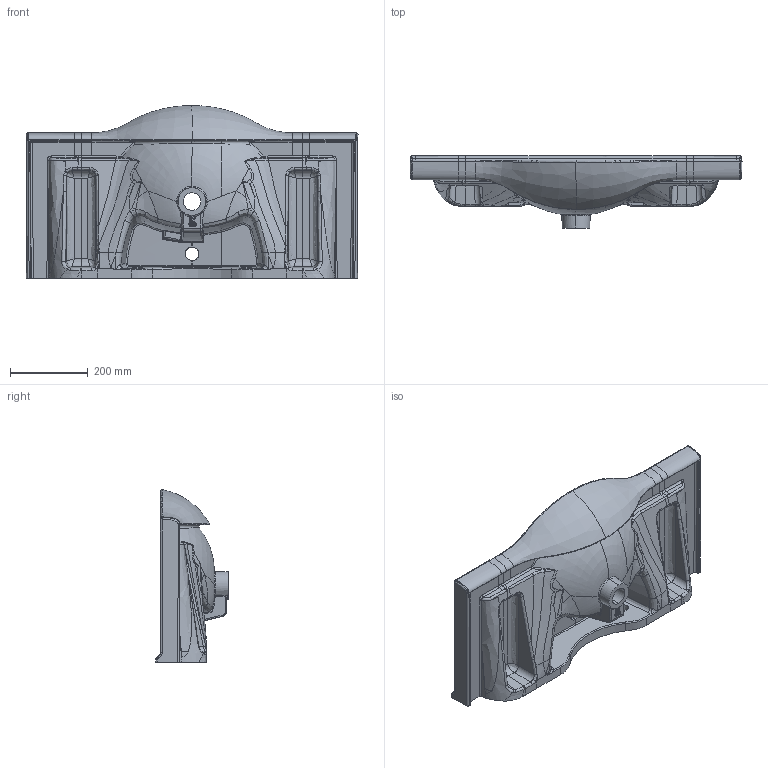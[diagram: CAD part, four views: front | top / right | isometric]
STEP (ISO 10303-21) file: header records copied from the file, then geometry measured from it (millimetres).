
FILE_DESCRIPTION (( 'STEP AP203' ), '1' );
FILE_NAME ('ET185-00CB00E-0000.STEP', '2022-05-10T12:42:11', ( '' ), ( '' ), 'SwSTEP 2.0', 'SolidWorks 2021', '' );
FILE_SCHEMA (( 'CONFIG_CONTROL_DESIGN' ));
Products named in the file (1): ET185-00CB00E-0000
Bounding box: 853.34 x 186 x 444.21 mm (x, y, z)
Volume: 16258304.1 mm3; surface area: 1098091.3 mm2
Topology: 2 solids, 2 shells, 1037 faces, 2608 edges, 1547 vertices
Faces by surface type: bspline 872, cylinder 65, sphere 51, plane 49
Entity records: 254041 total; most frequent: CARTESIAN_POINT 237122, ORIENTED_EDGE 5150, EDGE_CURVE 2575, B_SPLINE_CURVE_WITH_KNOTS 1902, VERTEX_POINT 1547, EDGE_LOOP 1052, DIRECTION 1043, ADVANCED_FACE 1037
